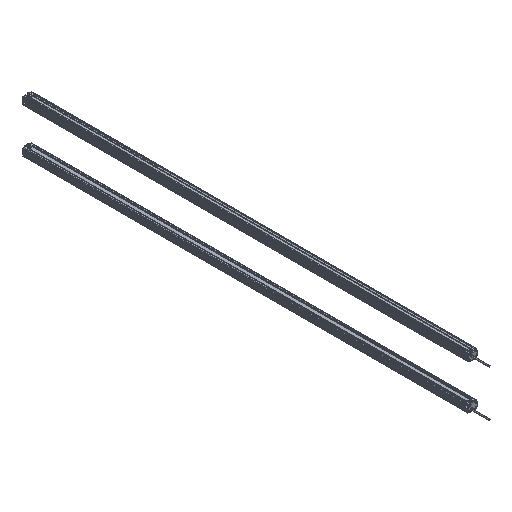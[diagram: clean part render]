
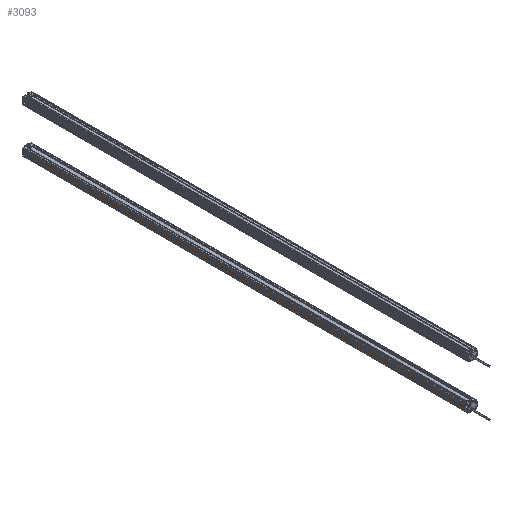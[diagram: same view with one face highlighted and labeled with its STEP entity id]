
A CAD part, isometric view. The second image highlights one B-rep face of the part: STEP entity #3093.
In plain terms, the highlighted planar face has unit normal (-1, 0, 0).
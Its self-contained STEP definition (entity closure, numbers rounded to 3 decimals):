
#1 = ORIENTED_EDGE ( 'NONE', *, *, #9346, .F. ) ;
#61 = CARTESIAN_POINT ( 'NONE',  ( -12.5, 0., -9.2 ) ) ;
#192 = CARTESIAN_POINT ( 'NONE',  ( -12.5, -1200., 8.293 ) ) ;
#246 = VECTOR ( 'NONE', #3017, 1000. ) ;
#284 = CARTESIAN_POINT ( 'NONE',  ( -12.5, -1200., -9.2 ) ) ;
#561 = CARTESIAN_POINT ( 'NONE',  ( -12.5, -1200., -9.2 ) ) ;
#1197 = DIRECTION ( 'NONE',  ( -1., 0., 0. ) ) ;
#1289 = VERTEX_POINT ( 'NONE', #8965 ) ;
#1469 = CARTESIAN_POINT ( 'NONE',  ( -12.5, -1200., -9.2 ) ) ;
#2001 = VERTEX_POINT ( 'NONE', #61 ) ;
#3017 = DIRECTION ( 'NONE',  ( 0., 1., 0. ) ) ;
#3093 = ADVANCED_FACE ( 'NONE', ( #5557 ), #6950, .T. ) ;
#3115 = EDGE_CURVE ( 'NONE', #1289, #7099, #8289, .T. ) ;
#3538 = EDGE_CURVE ( 'NONE', #7099, #5412, #10516, .T. ) ;
#3564 = VECTOR ( 'NONE', #5709, 1000. ) ;
#3676 = DIRECTION ( 'NONE',  ( 0., 0., 1. ) ) ;
#5056 = VECTOR ( 'NONE', #7165, 1000. ) ;
#5412 = VERTEX_POINT ( 'NONE', #7082 ) ;
#5442 = ORIENTED_EDGE ( 'NONE', *, *, #5566, .F. ) ;
#5557 = FACE_OUTER_BOUND ( 'NONE', #6034, .T. ) ;
#5566 = EDGE_CURVE ( 'NONE', #2001, #5412, #8762, .T. ) ;
#5709 = DIRECTION ( 'NONE',  ( 0., 0., 1. ) ) ;
#5754 = DIRECTION ( 'NONE',  ( 0., 1., 0. ) ) ;
#6034 = EDGE_LOOP ( 'NONE', ( #5442, #1, #7980, #7382 ) ) ;
#6625 = VECTOR ( 'NONE', #5754, 1000. ) ;
#6950 = PLANE ( 'NONE',  #9705 ) ;
#7082 = CARTESIAN_POINT ( 'NONE',  ( -12.5, 0., 8.293 ) ) ;
#7099 = VERTEX_POINT ( 'NONE', #192 ) ;
#7165 = DIRECTION ( 'NONE',  ( 0., 0., 1. ) ) ;
#7195 = CARTESIAN_POINT ( 'NONE',  ( -12.5, -1200., 8.293 ) ) ;
#7382 = ORIENTED_EDGE ( 'NONE', *, *, #3538, .T. ) ;
#7980 = ORIENTED_EDGE ( 'NONE', *, *, #3115, .T. ) ;
#8289 = LINE ( 'NONE', #561, #5056 ) ;
#8762 = LINE ( 'NONE', #10600, #3564 ) ;
#8818 = LINE ( 'NONE', #1469, #6625 ) ;
#8965 = CARTESIAN_POINT ( 'NONE',  ( -12.5, -1200., -9.2 ) ) ;
#9346 = EDGE_CURVE ( 'NONE', #1289, #2001, #8818, .T. ) ;
#9705 = AXIS2_PLACEMENT_3D ( 'NONE', #284, #1197, #3676 ) ;
#10516 = LINE ( 'NONE', #7195, #246 ) ;
#10600 = CARTESIAN_POINT ( 'NONE',  ( -12.5, 0., -9.2 ) ) ;
